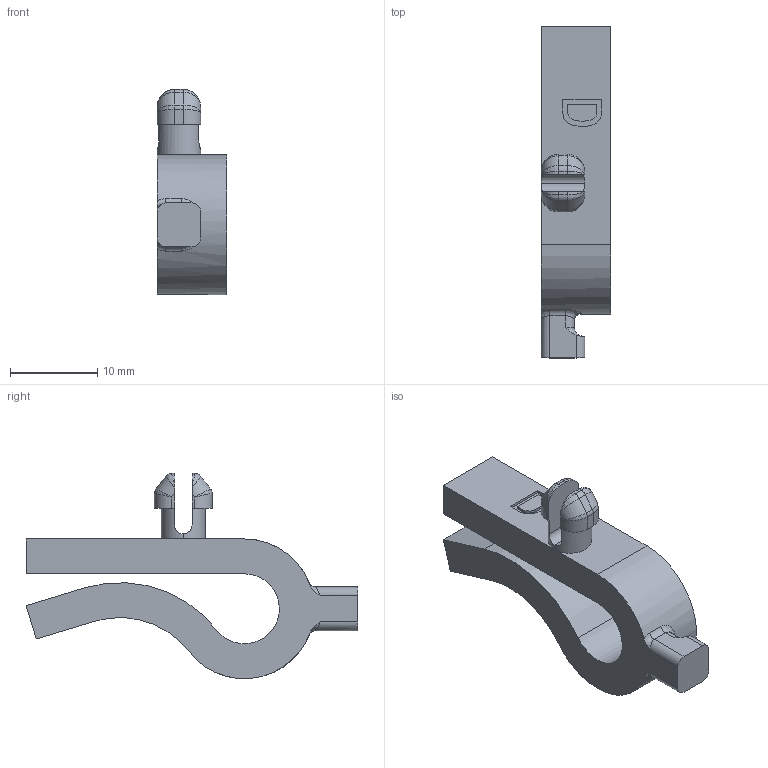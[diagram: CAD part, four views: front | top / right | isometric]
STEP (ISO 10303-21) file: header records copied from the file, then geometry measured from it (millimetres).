
FILE_DESCRIPTION(('CATIA V5 STEP Exchange'),'2;1');
FILE_NAME('C:\Users\FBAERT\Documents\Vis Casque\Clips DF.stp','2020-04-08T20:11:14+00:00',('none'),('none'),'CATIA Version 5 Release 20 GA (IN-10)','CATIA V5 STEP AP203','none');
FILE_SCHEMA(('CONFIG_CONTROL_DESIGN'));
Length unit declared in the file: millimetre
Products named in the file (1): Part1
Bounding box: 8 x 38 x 23.48 mm (x, y, z)
Volume: 2477.4 mm3; surface area: 2032.9 mm2
Topology: 1 solids, 1 shells, 106 faces, 276 edges, 170 vertices
Faces by surface type: plane 58, cylinder 33, bspline 12, torus 3
Entity records: 3820 total; most frequent: CARTESIAN_POINT 1413, ORIENTED_EDGE 544, DIRECTION 382, EDGE_CURVE 272, VECTOR 175, LINE 175, VERTEX_POINT 170, AXIS2_PLACEMENT_3D 126
